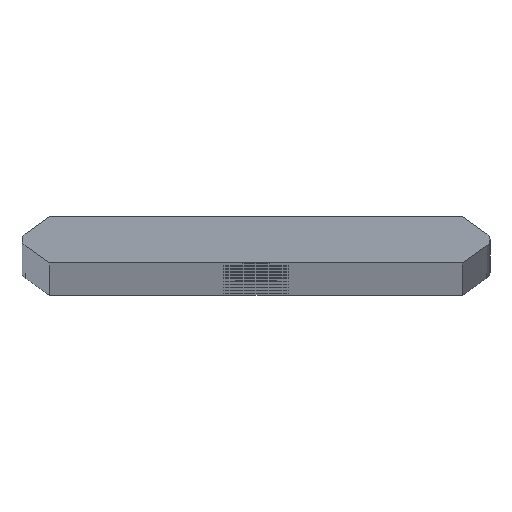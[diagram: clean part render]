
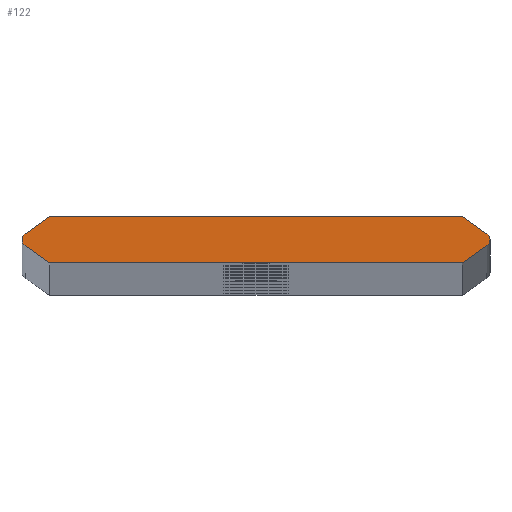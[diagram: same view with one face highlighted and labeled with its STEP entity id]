
A CAD part, top view. The second image highlights one B-rep face of the part: STEP entity #122.
In plain terms, the highlighted planar face has unit normal (0, 0, 1).
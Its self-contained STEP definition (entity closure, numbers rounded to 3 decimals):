
#122=ADVANCED_FACE('',(#226),#227,.T.);
#226=FACE_OUTER_BOUND('',#382,.T.);
#227=PLANE('',#383);
#382=EDGE_LOOP('',(#773,#774,#775,#776,#777,#778,#779,#780,#781,#782));
#383=AXIS2_PLACEMENT_3D('',#783,#784,#785);
#773=ORIENTED_EDGE('',*,*,#941,.T.);
#774=ORIENTED_EDGE('',*,*,#1078,.T.);
#775=ORIENTED_EDGE('',*,*,#1079,.F.);
#776=ORIENTED_EDGE('',*,*,#1080,.F.);
#777=ORIENTED_EDGE('',*,*,#1081,.F.);
#778=ORIENTED_EDGE('',*,*,#937,.T.);
#779=ORIENTED_EDGE('',*,*,#1082,.T.);
#780=ORIENTED_EDGE('',*,*,#1083,.F.);
#781=ORIENTED_EDGE('',*,*,#1084,.F.);
#782=ORIENTED_EDGE('',*,*,#1085,.F.);
#783=CARTESIAN_POINT('',(0.0,0.,1976.0));
#784=DIRECTION('',(0.0,0.0,1.0));
#785=DIRECTION('',(1.0,0.0,0.0));
#937=EDGE_CURVE('',#1101,#1098,#1102,.T.);
#941=EDGE_CURVE('',#1109,#1106,#1110,.T.);
#1078=EDGE_CURVE('',#1106,#1336,#1338,.T.);
#1079=EDGE_CURVE('',#1339,#1336,#1340,.T.);
#1080=EDGE_CURVE('',#1341,#1339,#1342,.T.);
#1081=EDGE_CURVE('',#1101,#1341,#1343,.T.);
#1082=EDGE_CURVE('',#1098,#1344,#1345,.T.);
#1083=EDGE_CURVE('',#1346,#1344,#1347,.T.);
#1084=EDGE_CURVE('',#1348,#1346,#1349,.T.);
#1085=EDGE_CURVE('',#1109,#1348,#1350,.T.);
#1098=VERTEX_POINT('',#1368);
#1101=VERTEX_POINT('',#1372);
#1102=CIRCLE('',#1373,0.76);
#1106=VERTEX_POINT('',#1378);
#1109=VERTEX_POINT('',#1382);
#1110=CIRCLE('',#1383,0.76);
#1336=VERTEX_POINT('',#1654);
#1338=CIRCLE('',#1657,0.76);
#1339=VERTEX_POINT('',#1658);
#1340=LINE('',#1659,#1660);
#1341=VERTEX_POINT('',#1661);
#1342=LINE('',#1662,#1663);
#1343=LINE('',#1664,#1665);
#1344=VERTEX_POINT('',#1666);
#1345=CIRCLE('',#1667,0.76);
#1346=VERTEX_POINT('',#1668);
#1347=LINE('',#1669,#1670);
#1348=VERTEX_POINT('',#1671);
#1349=LINE('',#1672,#1673);
#1350=LINE('',#1674,#1675);
#1368=CARTESIAN_POINT('',(24.845,0.,1976.0));
#1372=CARTESIAN_POINT('',(24.524,-0.62,1976.0));
#1373=AXIS2_PLACEMENT_3D('',#1705,#1706,#1707);
#1378=CARTESIAN_POINT('',(-24.845,0.,1976.0));
#1382=CARTESIAN_POINT('',(-24.524,0.62,1976.0));
#1383=AXIS2_PLACEMENT_3D('',#1713,#1714,#1715);
#1654=CARTESIAN_POINT('',(-24.524,-0.62,1976.0));
#1657=AXIS2_PLACEMENT_3D('',#2032,#2033,#2034);
#1658=CARTESIAN_POINT('',(-21.89,-2.465,1976.0));
#1659=CARTESIAN_POINT('',(-25.41,0.,1976.0));
#1660=VECTOR('',#2035,1.0);
#1661=CARTESIAN_POINT('',(21.89,-2.465,1976.0));
#1662=CARTESIAN_POINT('',(21.89,-2.465,1976.0));
#1663=VECTOR('',#2036,1.0);
#1664=CARTESIAN_POINT('',(25.41,0.0,1976.0));
#1665=VECTOR('',#2037,1.0);
#1666=CARTESIAN_POINT('',(24.524,0.62,1976.0));
#1667=AXIS2_PLACEMENT_3D('',#2038,#2039,#2040);
#1668=CARTESIAN_POINT('',(21.89,2.465,1976.0));
#1669=CARTESIAN_POINT('',(25.41,0.0,1976.0));
#1670=VECTOR('',#2041,1.0);
#1671=CARTESIAN_POINT('',(-21.89,2.465,1976.0));
#1672=CARTESIAN_POINT('',(-21.89,2.465,1976.0));
#1673=VECTOR('',#2042,1.0);
#1674=CARTESIAN_POINT('',(-25.41,0.,1976.0));
#1675=VECTOR('',#2043,1.0);
#1705=CARTESIAN_POINT('',(24.085,0.0,1976.0));
#1706=DIRECTION('',(0.0,0.0,1.0));
#1707=DIRECTION('',(1.0,0.0,0.0));
#1713=CARTESIAN_POINT('',(-24.085,0.,1976.0));
#1714=DIRECTION('',(0.0,0.0,1.0));
#1715=DIRECTION('',(-1.0,0.,0.0));
#2032=CARTESIAN_POINT('',(-24.085,0.,1976.0));
#2033=DIRECTION('',(0.0,0.0,1.0));
#2034=DIRECTION('',(-1.0,0.,0.0));
#2035=DIRECTION('',(-0.819,0.574,0.0));
#2036=DIRECTION('',(-1.0,0.0,0.0));
#2037=DIRECTION('',(-0.819,-0.574,0.0));
#2038=CARTESIAN_POINT('',(24.085,0.0,1976.0));
#2039=DIRECTION('',(0.0,0.0,1.0));
#2040=DIRECTION('',(1.0,0.0,0.0));
#2041=DIRECTION('',(0.819,-0.574,0.0));
#2042=DIRECTION('',(1.0,0.,0.0));
#2043=DIRECTION('',(0.819,0.574,0.0));
